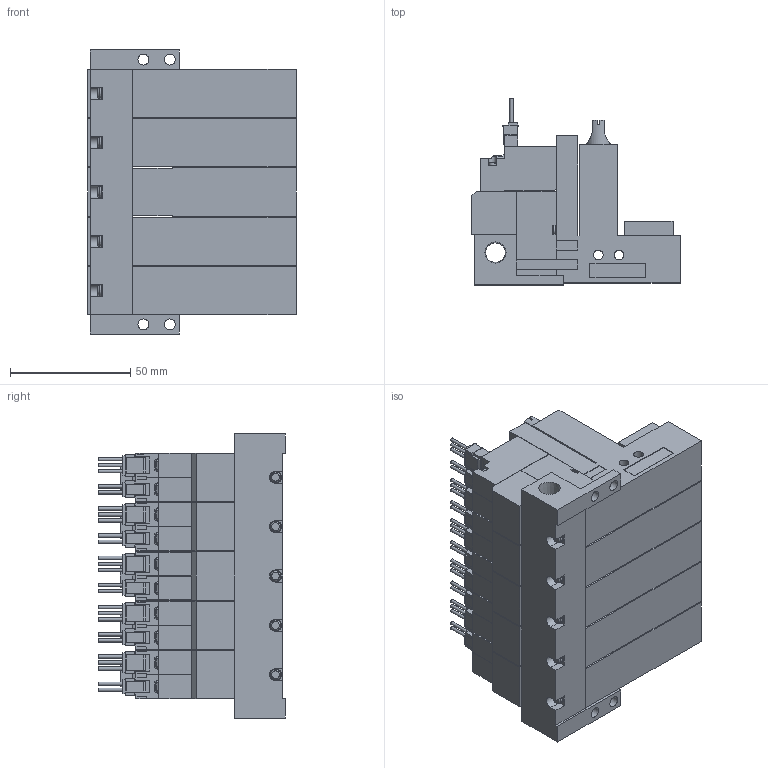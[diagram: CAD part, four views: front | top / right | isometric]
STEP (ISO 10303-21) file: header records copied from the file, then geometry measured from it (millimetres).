
FILE_DESCRIPTION(('STEP AP203'),'1');
FILE_NAME('ZL5WLR505.stp','2025-02-19T00:41:16',(' '),(' '),'Spatial InterOp 3D',' ',' ');
FILE_SCHEMA(('CONFIG_CONTROL_DESIGN'));
Length unit declared in the file: millimetre
Products named in the file (5): BMC22M※※※※ZL5WLR505; Solenoid valve W; Pressure sensor ZL; Unit L; Base MR50R
Assembly tree (16 placements, depth 2):
  BMC22M※※※※ZL5WLR505
    Solenoid valve W  x5
    Pressure sensor ZL  x5
    Unit L  x5
    Base MR50R
Bounding box: 86.6 x 77.45 x 118 mm (x, y, z)
Volume: 389110.1 mm3; surface area: 111034.2 mm2
Topology: 16 solids, 16 shells, 1656 faces, 4499 edges, 2970 vertices
Faces by surface type: plane 1424, cylinder 180, cone 37, torus 15
Full cylindrical faces by diameter (mm): 1.4 x25, 2.5 x5, 3 x20, 3.5 x20, 3.6 x5, 4 x10, 4.134 x5, 4.5 x4, 5.2 x5, 6 x5, 6.6 x5, 8.279 x1
Entity records: 12850 total; most frequent: CARTESIAN_POINT 2452, DIRECTION 2039, ORIENTED_EDGE 2002, EDGE_CURVE 1001, LINE 811, VECTOR 811, VERTEX_POINT 702, AXIS2_PLACEMENT_3D 614
